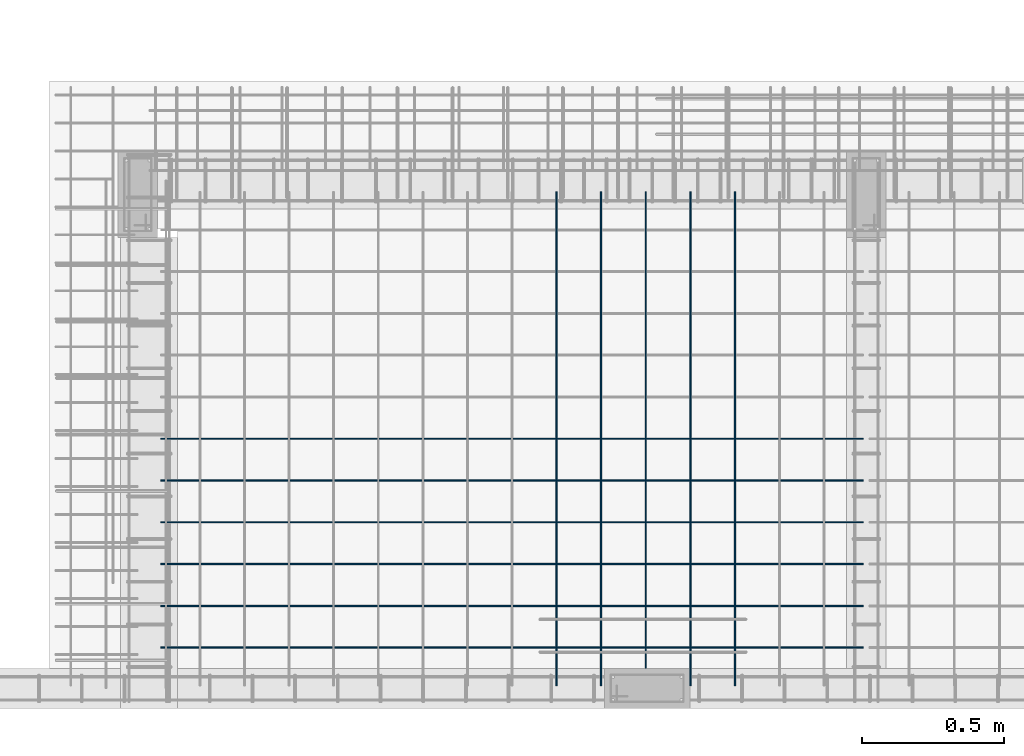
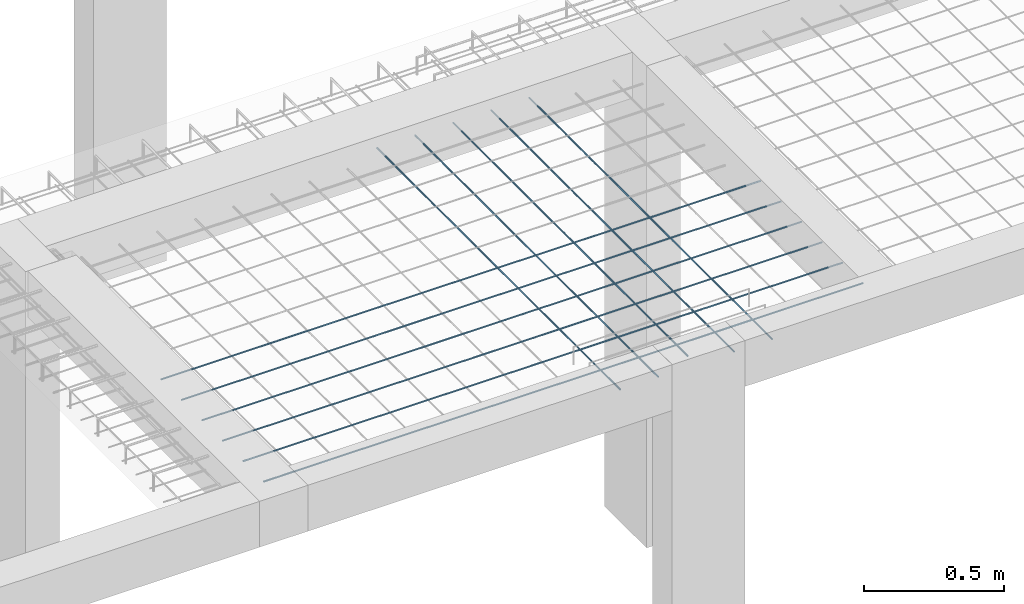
# One storey, part 36 of 236: 11 reinforcing bars.
"""IFC4 building model written with IfcOpenShell, lengths in centimetres."""

from ifc_helpers import new_model, entity, si_unit, derived_unit, frame, origin_with_axes, place, context, project, spatial, element, save


model = new_model("IFC4")

# Units and contexts
model_context = context("Model", 3, precision=1e-05, world=origin_with_axes(), identifier="Body")
ifc_project = project(units=[si_unit("LENGTHUNIT", "METRE", prefix="CENTI"), si_unit("VOLUMEUNIT", "CUBIC_METRE"), si_unit("AREAUNIT", "SQUARE_METRE"), si_unit("POWERUNIT", "WATT"), si_unit("LUMINOUSFLUXUNIT", "LUMEN"), si_unit("ELECTRICCURRENTUNIT", "AMPERE"), si_unit("PRESSUREUNIT", "PASCAL", prefix="KILO"), si_unit("MASSUNIT", "GRAM", prefix="KILO"), si_unit("PLANEANGLEUNIT", "RADIAN"), derived_unit("VOLUMETRICFLOWRATEUNIT", [(si_unit("LENGTHUNIT", "METRE"), 3), (si_unit("TIMEUNIT", "SECOND"), -1)])], contexts=[model_context])

# Site, building, storey
site_placement = place(None, frame((-4000.0, 0.0, 0.0), z_axis=(0.0, 0.0, 1.0), x_axis=(1.0, 0.0, 0.0)))
site = spatial("IfcSite", under=ifc_project, at=site_placement, Name="PADRÃO")
building_placement = place(site_placement, frame((0.0, 0.0, -14.0)))
building = spatial("IfcBuilding", under=site, at=building_placement, Name="CRECHE PRÉ-ESCOLA TIPO 2")
placement_1 = place(building_placement, origin_with_axes())
placement_2 = place(placement_1, frame((0.0, 0.0, 30.0), z_axis=(0.0, 0.0, 1.0), x_axis=(1.0, 0.0, 0.0)))
storey_placement = place(placement_2, frame((0.0, 0.0, 310.0), z_axis=(0.0, 0.0, 1.0), x_axis=(1.0, 0.0, 0.0)))
storey = spatial("IfcBuildingStorey", under=building, at=storey_placement, Name="TERREO", CompositionType="ELEMENT", Elevation=326.0)

# Reinforcing bars
reinforcing_bar_1_placement = place(storey_placement, frame((2728.65366666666, 96.75, -109.5), z_axis=(0.0, 0.0, 1.0), x_axis=(1.0, 0.0, 0.0)))
element("IfcReinforcingBar", 1, at=reinforcing_bar_1_placement, inside=storey, Name="L1 - Inferior X", BarLength=0.0, CrossSectionArea=1.9634954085e-05, NominalDiameter=0.5, PredefinedType="MAIN", context=model_context, shape_type="AdvancedSweptSolid", body=[
    entity("IfcSweptDiskSolid", entity("IfcCompositeCurve", [entity("IfcCompositeCurveSegment", "CONTINUOUS", True, entity("IfcPolyline", [entity("IfcCartesianPoint", [0.0, -86.75, -0.25]), entity("IfcCartesianPoint", [0.0, 86.75, -0.25])]))], False), 0.25),
])
reinforcing_bar_2_placement = place(storey_placement, frame((2759.991, 99.75, -109.5), z_axis=(0.0, 0.0, 1.0), x_axis=(1.0, 0.0, 0.0)))
element("IfcReinforcingBar", 2, at=reinforcing_bar_2_placement, inside=storey, Name="L1 - Inferior X", BarLength=0.0, CrossSectionArea=1.9634954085e-05, NominalDiameter=0.5, PredefinedType="MAIN", context=model_context, shape_type="AdvancedSweptSolid", body=[
    entity("IfcSweptDiskSolid", entity("IfcCompositeCurve", [entity("IfcCompositeCurveSegment", "CONTINUOUS", True, entity("IfcPolyline", [entity("IfcCartesianPoint", [0.0, -83.75, -0.25]), entity("IfcCartesianPoint", [0.0, 83.75, -0.25])]))], False), 0.25),
])
for number, where, z_axis, x_axis, name in (
    (3, (2775.65966666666, 96.75, -109.5), (0.0, 0.0, 1.0), (1.0, 0.0, 0.0), "L1 - Inferior X"),
    (4, (2791.32833333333, 96.75, -109.5), (0.0, 0.0, 1.0), (1.0, 0.0, 0.0), "L1 - Inferior X"),
    (5, (2744.32233333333, 96.75, -109.5), (0.0, 0.0, 1.0), (1.0, 0.0, 0.0), "L1 - Inferior X"),
):
    element("IfcReinforcingBar", number, at=place(storey_placement, frame(where, z_axis=z_axis, x_axis=x_axis)), inside=storey, Name=name, BarLength=0.0, CrossSectionArea=1.9634954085e-05, NominalDiameter=0.5, PredefinedType="MAIN", context=model_context, shape_type="AdvancedSweptSolid", body=[
        entity("IfcSweptDiskSolid", entity("IfcCompositeCurve", [entity("IfcCompositeCurveSegment", "CONTINUOUS", True, entity("IfcPolyline", [entity("IfcCartesianPoint", [0.0, -86.75, -0.25]), entity("IfcCartesianPoint", [0.0, 86.75, -0.25])]))], False), 0.25),
    ])
for number, where, z_axis, x_axis, name in (
    (6, (2712.975, 38.0227272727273, -109.0), (0.0, 0.0, 1.0), (1.0, 0.0, 0.0), "L1 - Inferior Y"),
    (7, (2712.975, 23.3409090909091, -109.0), (0.0, 0.0, 1.0), (1.0, 0.0, 0.0), "L1 - Inferior Y"),
    (8, (2712.975, 96.75, -109.0), (0.0, 0.0, 1.0), (1.0, 0.0, 0.0), "L1 - Inferior Y"),
    (9, (2712.975, 82.0681818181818, -109.0), (0.0, 0.0, 1.0), (1.0, 0.0, 0.0), "L1 - Inferior Y"),
    (10, (2712.975, 67.3863636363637, -109.0), (0.0, 0.0, 1.0), (1.0, 0.0, 0.0), "L1 - Inferior Y"),
    (11, (2712.975, 52.7045454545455, -109.0), (0.0, 0.0, 1.0), (1.0, 0.0, 0.0), "L1 - Inferior Y"),
):
    element("IfcReinforcingBar", number, at=place(storey_placement, frame(where, z_axis=z_axis, x_axis=x_axis)), inside=storey, Name=name, BarLength=0.0, CrossSectionArea=1.9634954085e-05, NominalDiameter=0.5, PredefinedType="MAIN", context=model_context, shape_type="AdvancedSweptSolid", body=[
        entity("IfcSweptDiskSolid", entity("IfcCompositeCurve", [entity("IfcCompositeCurveSegment", "CONTINUOUS", True, entity("IfcPolyline", [entity("IfcCartesianPoint", [123.505, 0.0, -0.25]), entity("IfcCartesianPoint", [-123.505, 0.0, -0.25])]))], False), 0.25),
    ])

save(model, "model.ifc")
